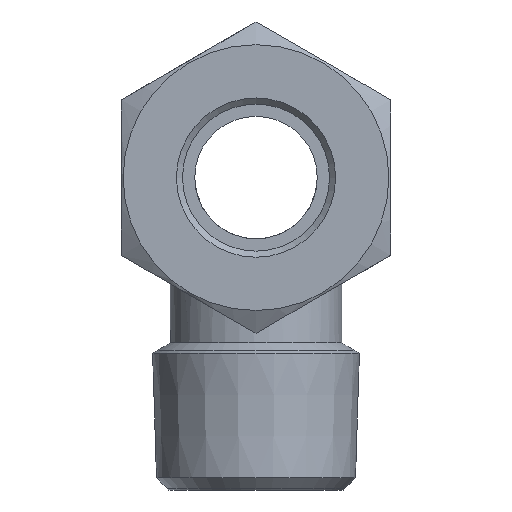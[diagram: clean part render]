
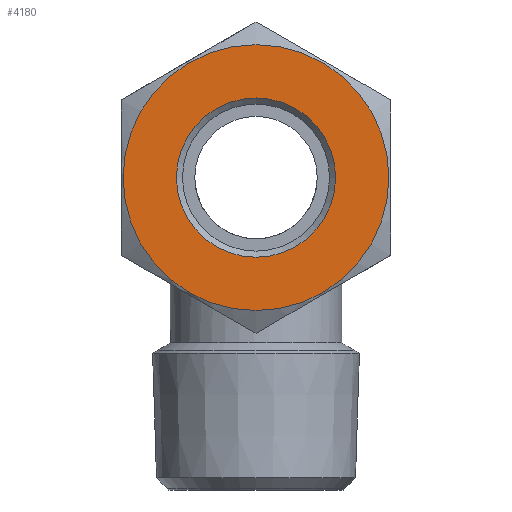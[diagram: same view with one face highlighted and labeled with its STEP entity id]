
A CAD part, left-side view. The second image highlights one B-rep face of the part: STEP entity #4180.
In plain terms, the highlighted planar face has unit normal (-1, 0, 0).
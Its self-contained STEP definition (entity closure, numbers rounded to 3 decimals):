
#4180=ADVANCED_FACE('', (#4190,#4200), #4210, .T.);
#13120=AXIS2_PLACEMENT_3D('Ax2Pl3d', #13130, #13140, #13150);
#13240=AXIS2_PLACEMENT_3D('Ax2Pl3d', #13250, #13260, #13270);
#13280=AXIS2_PLACEMENT_3D('Ax2Pl3d', #13290, #13300, #13310);
#13130=CARTESIAN_POINT('HicPkt', (5.305,14.923,33.928));
#44960=CARTESIAN_POINT('', (5.305,4.073,33.928));
#13250=CARTESIAN_POINT('HicPkt', (5.305,14.923,44.778))
;
#13290=CARTESIAN_POINT('HicPkt', (5.305,14.923,33.928));
#44980=CARTESIAN_POINT('', (5.305,21.423,33.928));
#45880=CIRCLE('Circle', #13120, 10.85);
#45900=CIRCLE('Circle', #13280, 6.5);
#13140=DIRECTION('Axis', (1.,0.,0.));
#13150=DIRECTION('RefDirection', (0.,-0.,-1.));
#13260=DIRECTION('Axis', (-1.,0.,0.)
);
#13270=DIRECTION('RefDirection', (0.,
0.,-1.));
#13300=DIRECTION('Axis', (1.,0.,0.));
#13310=DIRECTION('RefDirection', (0.,-0.,-1.));
#57340=EDGE_CURVE('', #57350, #57350, #45880, .T.);
#57380=EDGE_CURVE('', #57390, #57390, #45900, .T.);
#63220=EDGE_LOOP('Edge_loop', (#63230));
#63240=EDGE_LOOP('Edge_loop', (#63250));
#4200=FACE_BOUND('', #63240, .T.);
#4190=FACE_OUTER_BOUND('Face_outer_bound', #63220, .T.);
#63230=ORIENTED_EDGE('', *, *, #57340, .F.);
#63250=ORIENTED_EDGE('', *, *, #57380, .T.);
#4210=PLANE('Plane', #13240);
#57350=VERTEX_POINT('', #44960);
#57390=VERTEX_POINT('', #44980);
